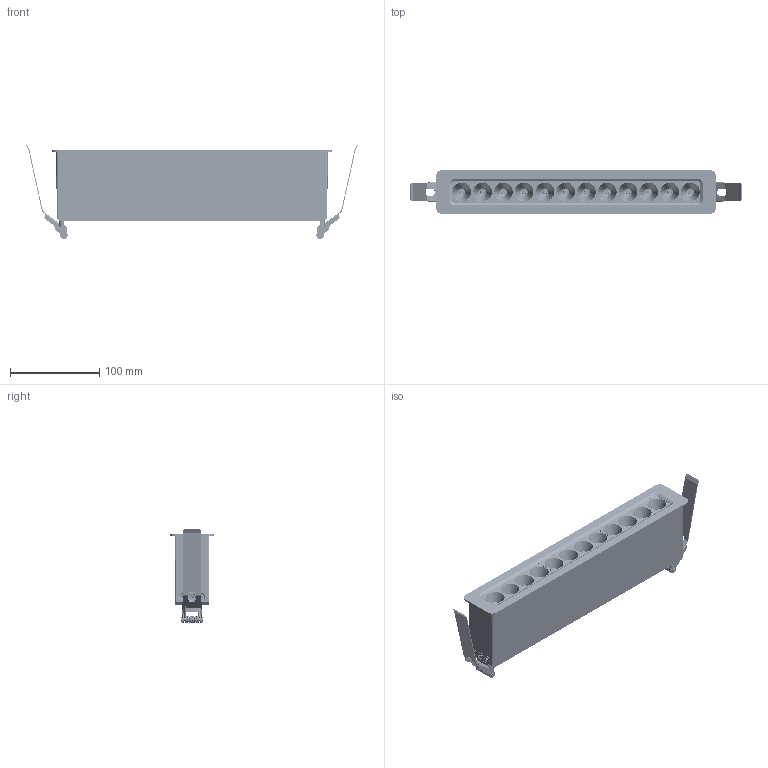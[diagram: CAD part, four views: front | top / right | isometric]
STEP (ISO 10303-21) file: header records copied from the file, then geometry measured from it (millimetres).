
FILE_DESCRIPTION(/* description */ (''),/* implementation_level */ '2;1');
FILE_NAME(/* name */ 'Darcy 12 Cells Assembly - Rec - IP20.stp',/* time_stamp */ '2026-02-19T10:54:38+11:00',/* author */ ('Mlight'),/* organization */ (''),/* preprocessor_version */ 'ST-DEVELOPER v20',/* originating_system */ 'Autodesk Inventor 2024',/* authorisation */ '');
FILE_SCHEMA (('AUTOMOTIVE_DESIGN { 1 0 10303 214 3 1 1 }'));
Products named in the file (25): Evelo X 12 Cell SM Darcy; DARCY Board Assembly with Weld Clip; Ledil Darcy PCB; C18696; LED Board 2000 A0; AS 1427 - M3 x 6; DARCY-4x1; Copy (1) of C19683_DARCY-SHD_004_MechanicalModel_001; Copy (1) of Mechanical-LENS; Copy (2) of Mechanical-LENS; Copy (3) of Mechanical-LENS; Copy (4) of Mechanical-LENS; Evelo X Heat Sink Toshine Revision; AS 1427 - M4 x 10; Evelo Modular SM Outer Body; Custom Spring Assembly; Custom Spring Holder; Custom Spring Leg; Pin; Spring; AS 1237 - 4; AS 1427 - M4 x 10_1; Evelo X IP20 Bracket; Recessed Cover Plate; AS 1427 - M4 x 6
Assembly tree (57 placements, depth 3):
  Evelo X 12 Cell SM Darcy
    DARCY Board Assembly with Weld Clip
      Ledil Darcy PCB
      C18696  x12
      LED Board 2000 A0  x6
    AS 1427 - M3 x 6  x6
    DARCY-4x1  x3
      Copy (1) of C19683_DARCY-SHD_004_MechanicalModel_001
      Copy (1) of Mechanical-LENS
      Copy (2) of Mechanical-LENS
      Copy (3) of Mechanical-LENS
      Copy (4) of Mechanical-LENS
    Evelo X Heat Sink Toshine Revision
    AS 1427 - M4 x 10  x6
    Evelo Modular SM Outer Body
    Custom Spring Assembly  x2
      Custom Spring Holder
      Custom Spring Leg
      Pin
      Spring
    AS 1237 - 4  x2
    AS 1427 - M4 x 10_1  x2
    Evelo X IP20 Bracket  x2
    Recessed Cover Plate
    AS 1427 - M4 x 6  x2
Bounding box: 372.79 x 48.89 x 105.83 mm (x, y, z)
Volume: 280120.6 mm3; surface area: 263138.2 mm2
Topology: 65 solids, 65 shells, 8613 faces, 22180 edges, 13585 vertices
Faces by surface type: bspline 3593, plane 1853, cylinder 1111, cone 1029, torus 840, sphere 187
Full cylindrical faces by diameter (mm): 0.75 x4, 1.1 x6, 1.5 x8, 1.6 x6, 2.1 x3, 2.693 x6, 2.8 x2, 3 x14, 3.2 x6, 3.242 x8, 3.571 x10, 4 x10, 4.3 x2, 4.5 x6, 4.8 x4, 5 x4, 7 x6, 8 x3
Entity records: 165060 total; most frequent: CARTESIAN_POINT 95176, ORIENTED_EDGE 15326, DIRECTION 13036, EDGE_CURVE 7663, AXIS2_PLACEMENT_3D 5452, VERTEX_POINT 4670, EDGE_LOOP 3175, FACE_OUTER_BOUND 3040
